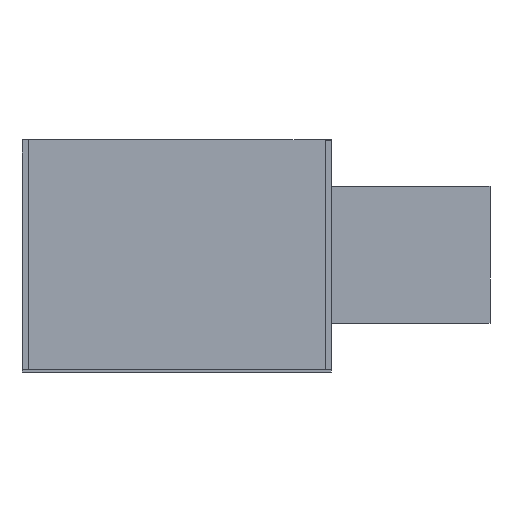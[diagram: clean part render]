
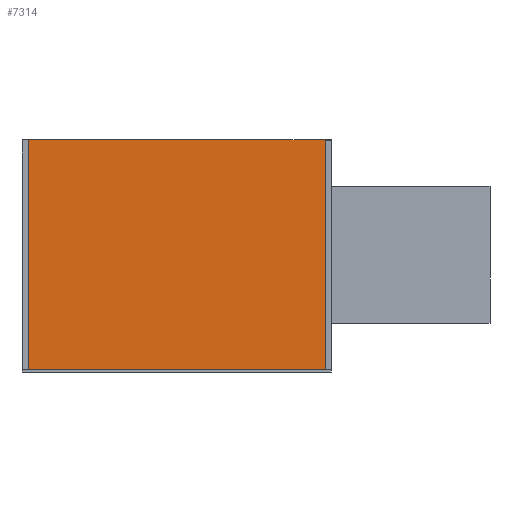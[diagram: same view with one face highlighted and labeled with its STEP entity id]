
A CAD part, left-side view. The second image highlights one B-rep face of the part: STEP entity #7314.
In plain terms, the highlighted planar face has unit normal (-1, 0, 0) as drawn and (0, 0, 1) by its records, which use the part's own axes.
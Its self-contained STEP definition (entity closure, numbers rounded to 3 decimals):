
#170 = AXIS2_PLACEMENT_3D ( 'NONE', #5135, #4559, #1803 ) ;
#175 = LINE ( 'NONE', #2857, #3818 ) ;
#532 = VERTEX_POINT ( 'NONE', #8466 ) ;
#570 = ORIENTED_EDGE ( 'NONE', *, *, #2026, .F. ) ;
#626 = DIRECTION ( 'NONE',  ( 0., 0., -1. ) ) ;
#748 = CIRCLE ( 'NONE', #7906, 0.2 ) ;
#883 = DIRECTION ( 'NONE',  ( 0., -1., 0. ) ) ;
#958 = EDGE_CURVE ( 'NONE', #8365, #1114, #2663, .T. ) ;
#1114 = VERTEX_POINT ( 'NONE', #2880 ) ;
#1267 = ORIENTED_EDGE ( 'NONE', *, *, #2056, .F. ) ;
#1383 = DIRECTION ( 'NONE',  ( -1., 0., 0. ) ) ;
#1389 = DIRECTION ( 'NONE',  ( -1., 0., 0. ) ) ;
#1661 = ORIENTED_EDGE ( 'NONE', *, *, #2115, .T. ) ;
#1803 = DIRECTION ( 'NONE',  ( -1., 0., 0. ) ) ;
#2026 = EDGE_CURVE ( 'NONE', #532, #7956, #2940, .T. ) ;
#2056 = EDGE_CURVE ( 'NONE', #4070, #5606, #175, .T. ) ;
#2115 = EDGE_CURVE ( 'NONE', #3099, #1114, #5914, .T. ) ;
#2143 = CARTESIAN_POINT ( 'NONE',  ( -148.376, 73.687, 0. ) ) ;
#2380 = ORIENTED_EDGE ( 'NONE', *, *, #5858, .F. ) ;
#2520 = DIRECTION ( 'NONE',  ( -1., 0., 0. ) ) ;
#2663 = LINE ( 'NONE', #7403, #3960 ) ;
#2740 = CIRCLE ( 'NONE', #8354, 0.2 ) ;
#2857 = CARTESIAN_POINT ( 'NONE',  ( -148.176, 457.687, 0. ) ) ;
#2880 = CARTESIAN_POINT ( 'NONE',  ( -444.976, 73.687, 0. ) ) ;
#2940 = LINE ( 'NONE', #4345, #5909 ) ;
#3099 = VERTEX_POINT ( 'NONE', #5929 ) ;
#3203 = EDGE_CURVE ( 'NONE', #4070, #7956, #748, .T. ) ;
#3259 = PLANE ( 'NONE',  #4840 ) ;
#3530 = CARTESIAN_POINT ( 'NONE',  ( -148.176, 457.487, 0. ) ) ;
#3633 = DIRECTION ( 'NONE',  ( 0., 0., 1. ) ) ;
#3818 = VECTOR ( 'NONE', #883, 1000. ) ;
#3833 = DIRECTION ( 'NONE',  ( -1., 0., 0. ) ) ;
#3960 = VECTOR ( 'NONE', #1383, 1000. ) ;
#4070 = VERTEX_POINT ( 'NONE', #3530 ) ;
#4249 = CARTESIAN_POINT ( 'NONE',  ( -444.976, 457.487, 0. ) ) ;
#4345 = CARTESIAN_POINT ( 'NONE',  ( -148.176, 457.687, 0. ) ) ;
#4535 = FACE_OUTER_BOUND ( 'NONE', #7287, .T. ) ;
#4559 = DIRECTION ( 'NONE',  ( 0., 0., 1. ) ) ;
#4594 = CIRCLE ( 'NONE', #5861, 0.2 ) ;
#4639 = CARTESIAN_POINT ( 'NONE',  ( -148.376, 73.887, 0. ) ) ;
#4672 = ORIENTED_EDGE ( 'NONE', *, *, #3203, .T. ) ;
#4719 = DIRECTION ( 'NONE',  ( 0., 1., 0. ) ) ;
#4840 = AXIS2_PLACEMENT_3D ( 'NONE', #8659, #626, #3833 ) ;
#5135 = CARTESIAN_POINT ( 'NONE',  ( -444.976, 73.887, 0. ) ) ;
#5346 = ORIENTED_EDGE ( 'NONE', *, *, #5594, .T. ) ;
#5407 = ORIENTED_EDGE ( 'NONE', *, *, #958, .F. ) ;
#5594 = EDGE_CURVE ( 'NONE', #532, #7020, #2740, .T. ) ;
#5606 = VERTEX_POINT ( 'NONE', #7061 ) ;
#5610 = DIRECTION ( 'NONE',  ( 1., 0., 0. ) ) ;
#5848 = CARTESIAN_POINT ( 'NONE',  ( -148.376, 457.487, 0. ) ) ;
#5858 = EDGE_CURVE ( 'NONE', #3099, #7020, #8150, .T. ) ;
#5861 = AXIS2_PLACEMENT_3D ( 'NONE', #4639, #8158, #1389 ) ;
#5909 = VECTOR ( 'NONE', #5610, 1000. ) ;
#5914 = CIRCLE ( 'NONE', #170, 0.2 ) ;
#5929 = CARTESIAN_POINT ( 'NONE',  ( -445.176, 73.887, 0. ) ) ;
#6102 = VECTOR ( 'NONE', #4719, 1000. ) ;
#6180 = CARTESIAN_POINT ( 'NONE',  ( -148.376, 457.687, 0. ) ) ;
#6917 = CARTESIAN_POINT ( 'NONE',  ( -445.176, 457.487, 0. ) ) ;
#6930 = DIRECTION ( 'NONE',  ( -1., 0., 0. ) ) ;
#7020 = VERTEX_POINT ( 'NONE', #6917 ) ;
#7061 = CARTESIAN_POINT ( 'NONE',  ( -148.176, 73.887, 0. ) ) ;
#7287 = EDGE_LOOP ( 'NONE', ( #2380, #1661, #5407, #8513, #1267, #4672, #570, #5346 ) ) ;
#7314 = ADVANCED_FACE ( 'NONE', ( #4535 ), #3259, .F. ) ;
#7403 = CARTESIAN_POINT ( 'NONE',  ( -148.176, 73.687, 0. ) ) ;
#7486 = CARTESIAN_POINT ( 'NONE',  ( -445.176, 457.687, 0. ) ) ;
#7906 = AXIS2_PLACEMENT_3D ( 'NONE', #5848, #8530, #2520 ) ;
#7956 = VERTEX_POINT ( 'NONE', #6180 ) ;
#8150 = LINE ( 'NONE', #7486, #6102 ) ;
#8158 = DIRECTION ( 'NONE',  ( 0., 0., 1. ) ) ;
#8354 = AXIS2_PLACEMENT_3D ( 'NONE', #4249, #3633, #6930 ) ;
#8365 = VERTEX_POINT ( 'NONE', #2143 ) ;
#8466 = CARTESIAN_POINT ( 'NONE',  ( -444.976, 457.687, 0. ) ) ;
#8467 = EDGE_CURVE ( 'NONE', #8365, #5606, #4594, .T. ) ;
#8513 = ORIENTED_EDGE ( 'NONE', *, *, #8467, .T. ) ;
#8530 = DIRECTION ( 'NONE',  ( 0., 0., 1. ) ) ;
#8659 = CARTESIAN_POINT ( 'NONE',  ( -148.176, 73.687, 0. ) ) ;
